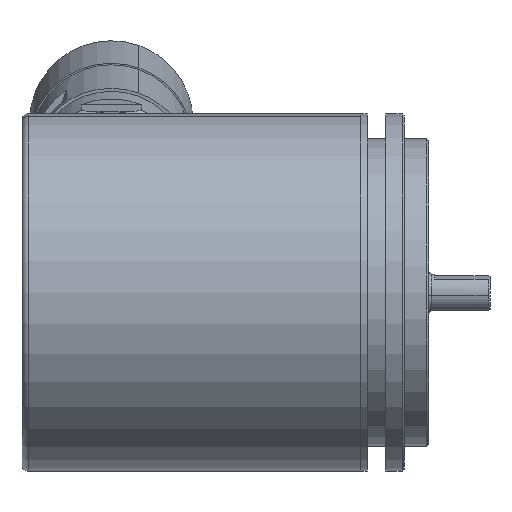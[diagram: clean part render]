
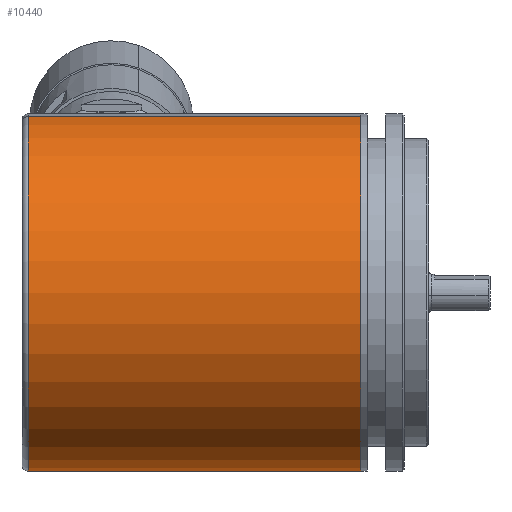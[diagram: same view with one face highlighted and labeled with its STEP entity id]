
A CAD part, front view. The second image highlights one B-rep face of the part: STEP entity #10440.
In plain terms, the highlighted cylindrical face has radius 29 mm (diameter 58 mm), a partial arc.
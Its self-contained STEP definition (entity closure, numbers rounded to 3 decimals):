
#944 = CARTESIAN_POINT ( 'NONE',  ( -39., -5.036, 28.559 ) ) ;
#1039 = CARTESIAN_POINT ( 'NONE',  ( 15., 5.036, -28.559 ) ) ;
#1045 = CARTESIAN_POINT ( 'NONE',  ( -39., 5.036, -28.559 ) ) ;
#1046 = CARTESIAN_POINT ( 'NONE',  ( 15., -5.036, 28.559 ) ) ;
#4879 = LINE ( 'NONE', #8067, #4886 ) ;
#4884 = CIRCLE ( 'NONE', #6503, 29. ) ;
#4885 = LINE ( 'NONE', #8071, #4888 ) ;
#4886 = VECTOR ( 'NONE', #8048, 1000. ) ;
#4888 = VECTOR ( 'NONE', #8072, 1000. ) ;
#4889 = CIRCLE ( 'NONE', #6504, 29. ) ;
#6503 = AXIS2_PLACEMENT_3D ( 'NONE', #8073, #8074, #8075 ) ;
#6504 = AXIS2_PLACEMENT_3D ( 'NONE', #8076, #8077, #8078 ) ;
#8048 = DIRECTION ( 'NONE',  ( -1., 0., 0. ) ) ;
#8067 = CARTESIAN_POINT ( 'NONE',  ( 15., 5.036, -28.559 ) ) ;
#8071 = CARTESIAN_POINT ( 'NONE',  ( 15., -5.036, 28.559 ) ) ;
#8072 = DIRECTION ( 'NONE',  ( -1., 0., 0. ) ) ;
#8073 = CARTESIAN_POINT ( 'NONE',  ( 15., 0., 0. ) ) ;
#8074 = DIRECTION ( 'NONE',  ( 1., 0., 0. ) ) ;
#8075 = DIRECTION ( 'NONE',  ( 0., 0.174, -0.985 ) ) ;
#8076 = CARTESIAN_POINT ( 'NONE',  ( -39., 0., 0. ) ) ;
#8077 = DIRECTION ( 'NONE',  ( 1., 0., 0. ) ) ;
#8078 = DIRECTION ( 'NONE',  ( 0., 0.174, -0.985 ) ) ;
#9379 = EDGE_LOOP ( 'NONE', ( #17798, #17799, #17801, #17936 ) ) ;
#10440 = ADVANCED_FACE ( 'NONE', ( #20836 ), #20845, .T. ) ;
#11373 = VERTEX_POINT ( 'NONE', #944 ) ;
#11468 = VERTEX_POINT ( 'NONE', #1039 ) ;
#11474 = VERTEX_POINT ( 'NONE', #1045 ) ;
#11475 = VERTEX_POINT ( 'NONE', #1046 ) ;
#16447 = EDGE_CURVE ( 'NONE', #11468, #11474, #4879, .T. ) ;
#16448 = EDGE_CURVE ( 'NONE', #11475, #11373, #4885, .T. ) ;
#16449 = EDGE_CURVE ( 'NONE', #11475, #11468, #4884, .T. ) ;
#16450 = EDGE_CURVE ( 'NONE', #11373, #11474, #4889, .T. ) ;
#17150 = AXIS2_PLACEMENT_3D ( 'NONE', #19997, #19995, #19994 ) ;
#17798 = ORIENTED_EDGE ( 'NONE', *, *, #16447, .F. ) ;
#17799 = ORIENTED_EDGE ( 'NONE', *, *, #16449, .F. ) ;
#17801 = ORIENTED_EDGE ( 'NONE', *, *, #16448, .T. ) ;
#17936 = ORIENTED_EDGE ( 'NONE', *, *, #16450, .T. ) ;
#19994 = DIRECTION ( 'NONE',  ( 0., -0.174, 0.985 ) ) ;
#19995 = DIRECTION ( 'NONE',  ( -1., 0., 0. ) ) ;
#19997 = CARTESIAN_POINT ( 'NONE',  ( 15., 0., 0. ) ) ;
#20836 = FACE_OUTER_BOUND ( 'NONE', #9379, .T. ) ;
#20845 = CYLINDRICAL_SURFACE ( 'NONE', #17150, 29. ) ;
